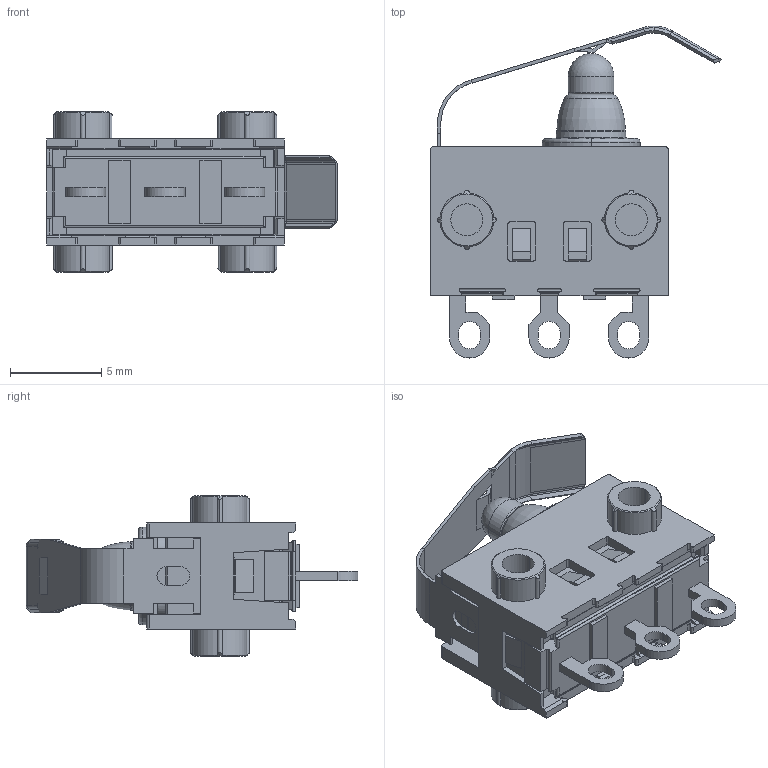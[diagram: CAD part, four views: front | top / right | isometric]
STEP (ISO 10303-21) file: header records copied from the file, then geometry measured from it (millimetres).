
FILE_DESCRIPTION (( 'STEP AP214' ), '1' );
FILE_NAME ('SPVQ370500.STEP', '2011-03-22T00:49:10', ( '' ), ( '' ), 'SwSTEP 2.0', 'SolidWorks 2007', '' );
FILE_SCHEMA (( 'AUTOMOTIVE_DESIGN' ));
Length unit declared in the file: millimetre
Products named in the file (1): SPVQ370500
Bounding box: 15.91 x 18.16 x 8.8 mm (x, y, z)
Volume: 651.1 mm3; surface area: 1291.3 mm2
Topology: 1 solids, 1 shells, 561 faces, 1568 edges, 1012 vertices
Faces by surface type: plane 319, cylinder 191, torus 22, cone 21, bspline 6, sphere 2
Entity records: 23995 total; most frequent: CARTESIAN_POINT 3567, ORIENTED_EDGE 3128, DIRECTION 3011, EDGE_CURVE 1564, VECTOR 1091, LINE 1091, VERTEX_POINT 1010, AXIS2_PLACEMENT_3D 960
